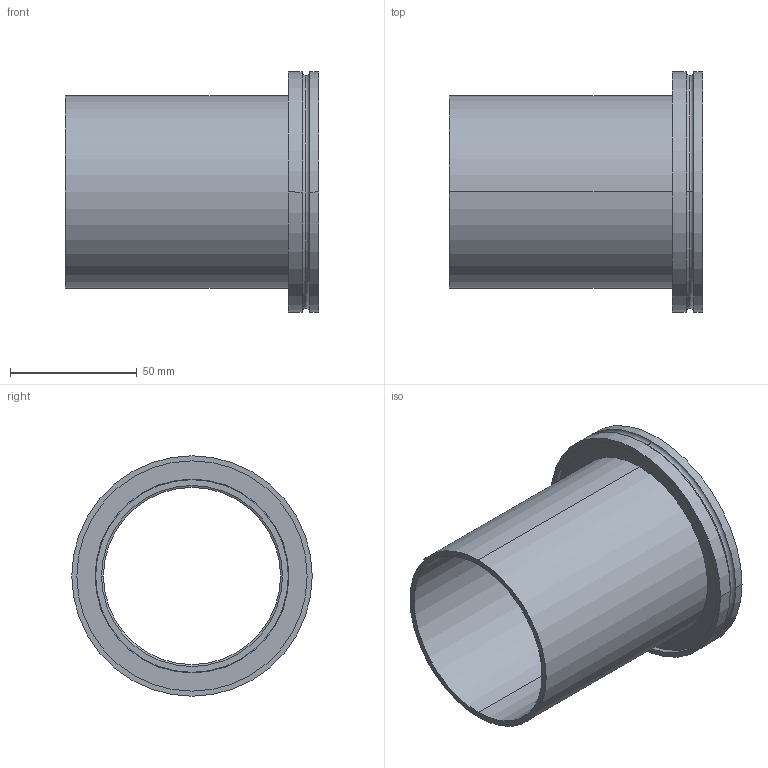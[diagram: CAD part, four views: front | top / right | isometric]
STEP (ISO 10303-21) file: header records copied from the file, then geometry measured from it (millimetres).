
FILE_DESCRIPTION((''),'2;1');
FILE_NAME('W:\212-051.stp','2004-01-07T14:47:32',('KAA'),(''),'Autodesk Inventor (R) 6.0','Autodesk Inventor (R) 6.0','');
FILE_SCHEMA(('CONFIG_CONTROL_DESIGN'));
Length unit declared in the file: millimetre
Products named in the file (1): 212-051
Bounding box: 100 x 95 x 95 mm (x, y, z)
Volume: 79142.2 mm3; surface area: 57465.3 mm2
Topology: 1 solids, 1 shells, 32 faces, 71 edges, 45 vertices
Faces by surface type: cylinder 14, plane 6, bspline 4, torus 4, cone 4
Entity records: 1171 total; most frequent: CARTESIAN_POINT 325, DIRECTION 182, ORIENTED_EDGE 142, AXIS2_PLACEMENT_3D 82, EDGE_CURVE 71, CIRCLE 53, VERTEX_POINT 45, EDGE_LOOP 38
